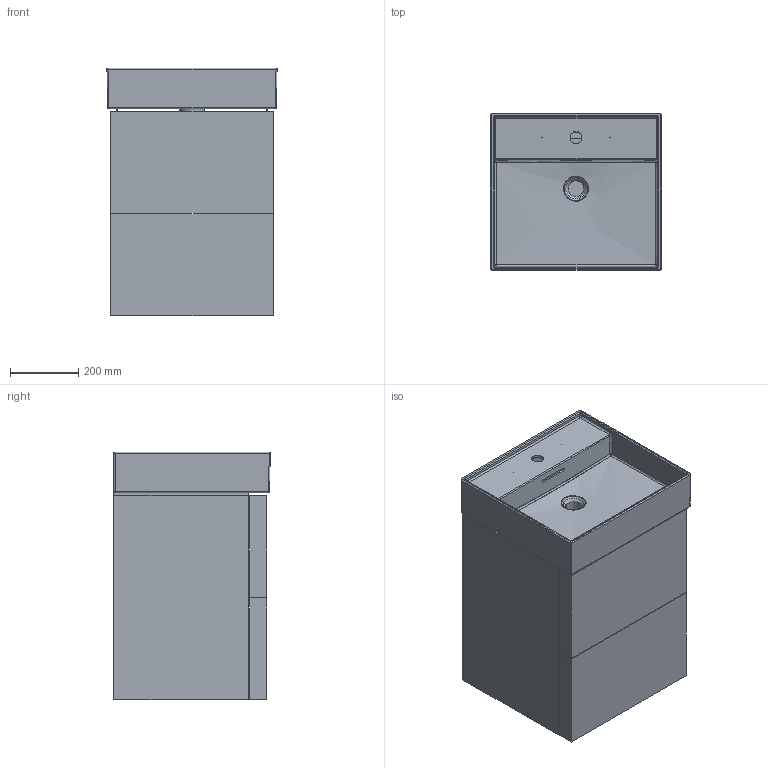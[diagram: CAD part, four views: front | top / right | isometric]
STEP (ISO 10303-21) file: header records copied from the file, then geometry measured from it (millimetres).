
FILE_DESCRIPTION(/* description */ (''),/* implementation_level */ '2;1');
FILE_NAME(/* name */ 'C:\Users\User33\Desktop\Kartell R\3D01_407509.stp',/* time_stamp */ '2018-05-15T09:14:24+02:00',/* author */ ('User33'),/* organization */ (''),/* preprocessor_version */ 'ST-DEVELOPER v16.13',/* originating_system */ 'Autodesk Inventor 2018',/* authorisation */ '');
FILE_SCHEMA (('AUTOMOTIVE_DESIGN { 1 0 10303 214 3 1 1 }'));
Products named in the file (39): 3D01_407509; 3D01_407509_1_1; 3D01_407509_1; 3D01_407509_1_2; 3D01_407509_2; 3D01_407509_3; 3D01_407509_4; 3D01_407509_5; 3D01_407509_6; 3D01_407509_7; 3D01_407509_8; 3D01_407509_9; 3D01_407509_10; 3D01_407509_11; 3D01_407509_12; 3D01_407509_13; 3D01_407509_14; 3D01_407509_15; 3D01_407509_16; 3D01_407509_17; 3D01_407509_18; 3D01_407509_19; 3D01_407509_20; 3D01_407509_21; 3D01_407509_22; 3D01_407509_23; 3D01_407509_24; 3D01_407509_25; 3D01_407509_26; 3D01_407509_27; 3D01_407509_28; 3D01_407509_29; 3D01_407509_30; 3D01_407509_31; 3D01_407509_32; 3D01_407509_33; 3D01_407509_34; 3D01_407509_35; 3D01_407509_36
Assembly tree (38 placements, depth 2):
  3D01_407509
    3D01_407509_1_1
    3D01_407509_1
    3D01_407509_1_2
    3D01_407509_2
    3D01_407509_3
    3D01_407509_4
    3D01_407509_5
    3D01_407509_6
    3D01_407509_7
    3D01_407509_8
    3D01_407509_9
    3D01_407509_10
    3D01_407509_11
    3D01_407509_12
    3D01_407509_13
    3D01_407509_14
    3D01_407509_15
    3D01_407509_16
    3D01_407509_17
    3D01_407509_18
    3D01_407509_19
    3D01_407509_20
    3D01_407509_21
    3D01_407509_22
    3D01_407509_23
    3D01_407509_24
    3D01_407509_25
    3D01_407509_26
    3D01_407509_27
    3D01_407509_28
    3D01_407509_29
    3D01_407509_30
    3D01_407509_31
    3D01_407509_32
    3D01_407509_33
    3D01_407509_34
    3D01_407509_35
    3D01_407509_36
Bounding box: 499.89 x 459.95 x 728 mm (x, y, z)
Volume: 30961190.9 mm3; surface area: 5168209.2 mm2
Topology: 37 solids, 351 shells, 1360 faces, 4231 edges, 3279 vertices
Faces by surface type: plane 835, cylinder 371, bspline 107, sphere 20, torus 18, cone 9
Full cylindrical faces by diameter (mm): 2.5 x4, 3 x2, 4 x12, 4.1 x4, 5.1 x4, 6 x12, 7.2 x4, 10 x4, 12 x4, 12.5 x4
Entity records: 100006 total; most frequent: CARTESIAN_POINT 61407, DIRECTION 7514, ORIENTED_EDGE 6877, EDGE_CURVE 4153, VERTEX_POINT 3275, LINE 2648, VECTOR 2648, AXIS2_PLACEMENT_3D 2433
